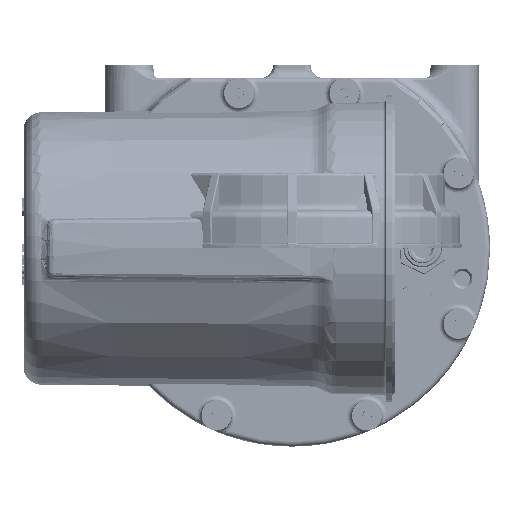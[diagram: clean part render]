
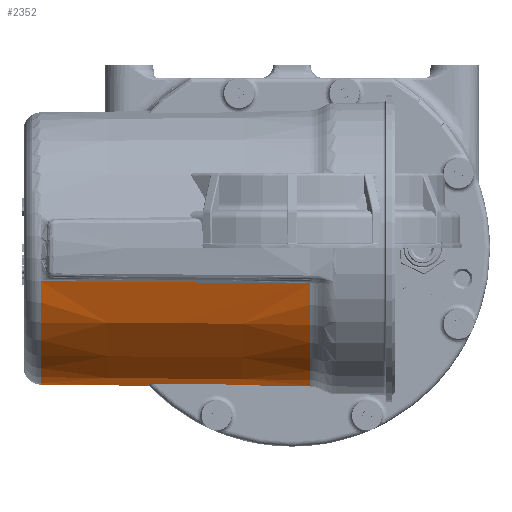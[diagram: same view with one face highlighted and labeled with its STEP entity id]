
A CAD part, front view. The second image highlights one B-rep face of the part: STEP entity #2352.
In plain terms, the highlighted conical face has half-angle 0.592 degrees and reference radius 54.24 mm.
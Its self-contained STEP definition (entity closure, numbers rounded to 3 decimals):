
#2352 = ADVANCED_FACE( '', ( #6599 ), #6600, .T. );
#6599 = FACE_OUTER_BOUND( '', #16529, .T. );
#6600 = CONICAL_SURFACE( '', #16530, 54.24, 0.01 );
#16529 = EDGE_LOOP( '', ( #38383, #38384, #38385, #38386 ) );
#16530 = AXIS2_PLACEMENT_3D( '', #38387, #38388, #38389 );
#38383 = ORIENTED_EDGE( '', *, *, #54966, .T. );
#38384 = ORIENTED_EDGE( '', *, *, #54971, .T. );
#38385 = ORIENTED_EDGE( '', *, *, #54968, .T. );
#38386 = ORIENTED_EDGE( '', *, *, #54952, .T. );
#38387 = CARTESIAN_POINT( '', ( -107., 0., 0. ) );
#38388 = DIRECTION( '', ( 1., 0., 0. ) );
#38389 = DIRECTION( '', ( 0., 0., -1. ) );
#54952 = EDGE_CURVE( '', #63907, #63951, #63953, .F. );
#54966 = EDGE_CURVE( '', #63951, #63781, #63977, .T. );
#54968 = EDGE_CURVE( '', #63979, #63907, #63980, .T. );
#54971 = EDGE_CURVE( '', #63781, #63979, #63984, .T. );
#63781 = VERTEX_POINT( '', #86855 );
#63907 = VERTEX_POINT( '', #87658 );
#63951 = VERTEX_POINT( '', #87913 );
#63953 = CIRCLE( '', #87932, 55.419 );
#63977 = B_SPLINE_CURVE_WITH_KNOTS( '', 3, ( #88088, #88089, #88090, #88091 ), .UNSPECIFIED., .F., .F., ( 4, 4 ), ( 0., 0.107 ), .UNSPECIFIED. );
#63979 = VERTEX_POINT( '', #88093 );
#63980 = B_SPLINE_CURVE_WITH_KNOTS( '', 3, ( #88094, #88095, #88096, #88097 ), .UNSPECIFIED., .F., .F., ( 4, 4 ), ( 0.002, 0.109 ), .UNSPECIFIED. );
#63984 = CIRCLE( '', #88149, 54.311 );
#86855 = CARTESIAN_POINT( '', ( -100.072, -52.714, -13.075 ) );
#87658 = CARTESIAN_POINT( '', ( 7.101, 53.642, -13.923 ) );
#87913 = CARTESIAN_POINT( '', ( 7.101, -53.642, -13.923 ) );
#87932 = AXIS2_PLACEMENT_3D( '', #113615, #113616, #113617 );
#88088 = CARTESIAN_POINT( '', ( 7.101, -53.642, -13.923 ) );
#88089 = CARTESIAN_POINT( '', ( -28.623, -53.334, -13.64 ) );
#88090 = CARTESIAN_POINT( '', ( -64.348, -53.024, -13.357 ) );
#88091 = CARTESIAN_POINT( '', ( -100.072, -52.714, -13.075 ) );
#88093 = CARTESIAN_POINT( '', ( -100.072, 52.714, -13.075 ) );
#88094 = CARTESIAN_POINT( '', ( -100.072, 52.714, -13.075 ) );
#88095 = CARTESIAN_POINT( '', ( -64.348, 53.024, -13.357 ) );
#88096 = CARTESIAN_POINT( '', ( -28.623, 53.334, -13.64 ) );
#88097 = CARTESIAN_POINT( '', ( 7.101, 53.642, -13.923 ) );
#88149 = AXIS2_PLACEMENT_3D( '', #113630, #113631, #113632 );
#113615 = CARTESIAN_POINT( '', ( 7.101, 0., 0. ) );
#113616 = DIRECTION( '', ( 1., 0., 0. ) );
#113617 = DIRECTION( '', ( 0., 0., -1. ) );
#113630 = CARTESIAN_POINT( '', ( -100.072, 0., 0. ) );
#113631 = DIRECTION( '', ( 1., 0., 0. ) );
#113632 = DIRECTION( '', ( 0., 0., -1. ) );
